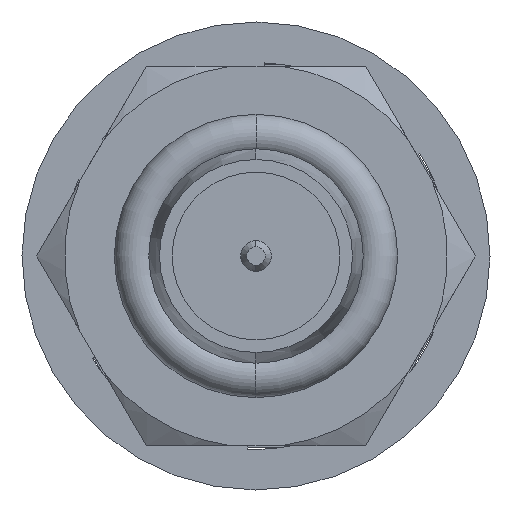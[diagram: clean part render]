
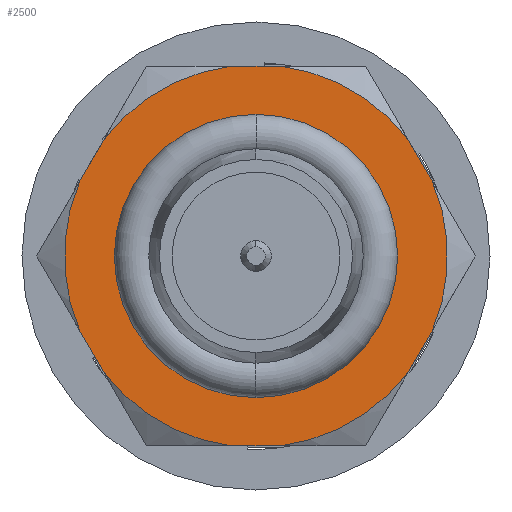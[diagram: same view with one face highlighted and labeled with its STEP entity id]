
A CAD part, left-side view. The second image highlights one B-rep face of the part: STEP entity #2500.
In plain terms, the highlighted planar face has unit normal (-1, 0, 0).
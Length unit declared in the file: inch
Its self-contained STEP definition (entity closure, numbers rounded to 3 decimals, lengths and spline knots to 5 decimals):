
#140 = CARTESIAN_POINT ( 'NONE',  ( 0.241, -0.0995, -0.07567 ) ) ;
#175 = CARTESIAN_POINT ( 'NONE',  ( 0.241, 0., 0. ) ) ;
#187 = CARTESIAN_POINT ( 'NONE',  ( 0.241, 0.0995, 0.07567 ) ) ;
#193 = DIRECTION ( 'NONE',  ( -1., 0., 0. ) ) ;
#222 = AXIS2_PLACEMENT_3D ( 'NONE', #6061, #6577, #3491 ) ;
#236 = CIRCLE ( 'NONE', #4353, 0.125 ) ;
#305 = ORIENTED_EDGE ( 'NONE', *, *, #2503, .F. ) ;
#368 = DIRECTION ( 'NONE',  ( 1., 0., 0. ) ) ;
#387 = VERTEX_POINT ( 'NONE', #2062 ) ;
#435 = VERTEX_POINT ( 'NONE', #1213 ) ;
#442 = EDGE_CURVE ( 'NONE', #435, #3842, #2944, .T. ) ;
#458 = VERTEX_POINT ( 'NONE', #5118 ) ;
#488 = DIRECTION ( 'NONE',  ( -1., 0., 0. ) ) ;
#502 = CARTESIAN_POINT ( 'NONE',  ( 0.241, 0.07159, -0.124 ) ) ;
#551 = CIRCLE ( 'NONE', #4852, 0.125 ) ;
#552 = ORIENTED_EDGE ( 'NONE', *, *, #4650, .T. ) ;
#608 = DIRECTION ( 'NONE',  ( 1., 0., 0. ) ) ;
#669 = AXIS2_PLACEMENT_3D ( 'NONE', #3660, #193, #5884 ) ;
#784 = LINE ( 'NONE', #4906, #1458 ) ;
#816 = LINE ( 'NONE', #502, #3428 ) ;
#838 = CARTESIAN_POINT ( 'NONE',  ( 0.241, 0.11528, -0.04833 ) ) ;
#879 = CIRCLE ( 'NONE', #6370, 0.125 ) ;
#942 = ORIENTED_EDGE ( 'NONE', *, *, #1393, .T. ) ;
#958 = CARTESIAN_POINT ( 'NONE',  ( 0.241, 0.11528, 0.04833 ) ) ;
#1060 = DIRECTION ( 'NONE',  ( 0., -0.5, 0.866 ) ) ;
#1106 = DIRECTION ( 'NONE',  ( -1., 0., 0. ) ) ;
#1123 = DIRECTION ( 'NONE',  ( 1., 0., 0. ) ) ;
#1171 = DIRECTION ( 'NONE',  ( -1., 0., 0. ) ) ;
#1213 = CARTESIAN_POINT ( 'NONE',  ( 0.241, -0.01578, -0.124 ) ) ;
#1256 = CARTESIAN_POINT ( 'NONE',  ( 0.241, 0.01578, -0.124 ) ) ;
#1377 = ORIENTED_EDGE ( 'NONE', *, *, #4714, .F. ) ;
#1385 = CIRCLE ( 'NONE', #2712, 0.125 ) ;
#1393 = EDGE_CURVE ( 'NONE', #4386, #3419, #1385, .T. ) ;
#1434 = VERTEX_POINT ( 'NONE', #2181 ) ;
#1438 = EDGE_CURVE ( 'NONE', #5699, #3419, #784, .T. ) ;
#1458 = VECTOR ( 'NONE', #1060, 39.37008 ) ;
#1519 = EDGE_CURVE ( 'NONE', #6169, #3842, #6223, .T. ) ;
#1555 = EDGE_CURVE ( 'NONE', #5699, #5489, #879, .T. ) ;
#1592 = EDGE_CURVE ( 'NONE', #5822, #6136, #3494, .T. ) ;
#1642 = ORIENTED_EDGE ( 'NONE', *, *, #1438, .F. ) ;
#1656 = FACE_BOUND ( 'NONE', #3223, .T. ) ;
#1808 = ORIENTED_EDGE ( 'NONE', *, *, #4174, .T. ) ;
#1945 = CARTESIAN_POINT ( 'NONE',  ( 0.241, -0.07159, 0.124 ) ) ;
#1989 = CARTESIAN_POINT ( 'NONE',  ( 0.241, 0.07159, -0.124 ) ) ;
#1993 = ORIENTED_EDGE ( 'NONE', *, *, #4245, .F. ) ;
#2062 = CARTESIAN_POINT ( 'NONE',  ( 0.241, 0., -0.09 ) ) ;
#2141 = DIRECTION ( 'NONE',  ( 0., 0.5, -0.866 ) ) ;
#2181 = CARTESIAN_POINT ( 'NONE',  ( 0.241, 0., 0.09 ) ) ;
#2243 = LINE ( 'NONE', #4796, #6214 ) ;
#2296 = DIRECTION ( 'NONE',  ( 0., 0.5, 0.866 ) ) ;
#2316 = DIRECTION ( 'NONE',  ( 0., -1., 0. ) ) ;
#2400 = LINE ( 'NONE', #1945, #5145 ) ;
#2454 = DIRECTION ( 'NONE',  ( 0., 0.866, 0.5 ) ) ;
#2482 = CARTESIAN_POINT ( 'NONE',  ( 0.241, -0.11528, 0.04833 ) ) ;
#2500 = ADVANCED_FACE ( 'NONE', ( #1656, #3209 ), #3058, .F. ) ;
#2503 = EDGE_CURVE ( 'NONE', #5822, #2549, #2400, .T. ) ;
#2546 = AXIS2_PLACEMENT_3D ( 'NONE', #6298, #1123, #4748 ) ;
#2549 = VERTEX_POINT ( 'NONE', #2482 ) ;
#2712 = AXIS2_PLACEMENT_3D ( 'NONE', #3307, #3118, #5608 ) ;
#2917 = AXIS2_PLACEMENT_3D ( 'NONE', #4873, #608, #5400 ) ;
#2944 = CIRCLE ( 'NONE', #222, 0.125 ) ;
#2985 = CARTESIAN_POINT ( 'NONE',  ( 0.241, 0.01578, 0.124 ) ) ;
#3058 = PLANE ( 'NONE',  #5104 ) ;
#3059 = ORIENTED_EDGE ( 'NONE', *, *, #1519, .F. ) ;
#3118 = DIRECTION ( 'NONE',  ( -1., 0., 0. ) ) ;
#3209 = FACE_OUTER_BOUND ( 'NONE', #5616, .T. ) ;
#3223 = EDGE_LOOP ( 'NONE', ( #3608, #1808 ) ) ;
#3245 = EDGE_CURVE ( 'NONE', #4386, #6136, #2243, .T. ) ;
#3307 = CARTESIAN_POINT ( 'NONE',  ( 0.241, 0., 0. ) ) ;
#3342 = CARTESIAN_POINT ( 'NONE',  ( 0.241, 0., 0. ) ) ;
#3419 = VERTEX_POINT ( 'NONE', #187 ) ;
#3428 = VECTOR ( 'NONE', #2296, 39.37008 ) ;
#3441 = CARTESIAN_POINT ( 'NONE',  ( 0.241, -0.07159, -0.124 ) ) ;
#3483 = VECTOR ( 'NONE', #2141, 39.37008 ) ;
#3491 = DIRECTION ( 'NONE',  ( 0., 0.866, 0.5 ) ) ;
#3494 = CIRCLE ( 'NONE', #669, 0.125 ) ;
#3590 = CIRCLE ( 'NONE', #2546, 0.09 ) ;
#3608 = ORIENTED_EDGE ( 'NONE', *, *, #4187, .T. ) ;
#3660 = CARTESIAN_POINT ( 'NONE',  ( 0.241, 0., 0. ) ) ;
#3694 = DIRECTION ( 'NONE',  ( 0., 1., 0. ) ) ;
#3741 = CIRCLE ( 'NONE', #2917, 0.09 ) ;
#3842 = VERTEX_POINT ( 'NONE', #140 ) ;
#3892 = ORIENTED_EDGE ( 'NONE', *, *, #3245, .F. ) ;
#4060 = LINE ( 'NONE', #3441, #6640 ) ;
#4174 = EDGE_CURVE ( 'NONE', #387, #1434, #3590, .T. ) ;
#4187 = EDGE_CURVE ( 'NONE', #1434, #387, #3741, .T. ) ;
#4245 = EDGE_CURVE ( 'NONE', #458, #5489, #816, .T. ) ;
#4253 = ORIENTED_EDGE ( 'NONE', *, *, #5324, .T. ) ;
#4353 = AXIS2_PLACEMENT_3D ( 'NONE', #3342, #1171, #2454 ) ;
#4365 = CARTESIAN_POINT ( 'NONE',  ( 0.241, -0.0995, 0.07567 ) ) ;
#4386 = VERTEX_POINT ( 'NONE', #2985 ) ;
#4468 = CARTESIAN_POINT ( 'NONE',  ( 0.241, 0., 0. ) ) ;
#4650 = EDGE_CURVE ( 'NONE', #6169, #2549, #236, .T. ) ;
#4714 = EDGE_CURVE ( 'NONE', #435, #5882, #4060, .T. ) ;
#4748 = DIRECTION ( 'NONE',  ( 0., 0., -1. ) ) ;
#4796 = CARTESIAN_POINT ( 'NONE',  ( 0.241, 0.07159, 0.124 ) ) ;
#4823 = ORIENTED_EDGE ( 'NONE', *, *, #1555, .T. ) ;
#4852 = AXIS2_PLACEMENT_3D ( 'NONE', #175, #1106, #6338 ) ;
#4873 = CARTESIAN_POINT ( 'NONE',  ( 0.241, 0., 0. ) ) ;
#4906 = CARTESIAN_POINT ( 'NONE',  ( 0.241, 0.14318, 0. ) ) ;
#5104 = AXIS2_PLACEMENT_3D ( 'NONE', #1989, #368, #6663 ) ;
#5118 = CARTESIAN_POINT ( 'NONE',  ( 0.241, 0.0995, -0.07567 ) ) ;
#5145 = VECTOR ( 'NONE', #6135, 39.37008 ) ;
#5168 = DIRECTION ( 'NONE',  ( 0., 0.866, 0.5 ) ) ;
#5286 = ORIENTED_EDGE ( 'NONE', *, *, #442, .T. ) ;
#5324 = EDGE_CURVE ( 'NONE', #458, #5882, #551, .T. ) ;
#5400 = DIRECTION ( 'NONE',  ( 0., 0., -1. ) ) ;
#5489 = VERTEX_POINT ( 'NONE', #838 ) ;
#5608 = DIRECTION ( 'NONE',  ( 0., 0.866, 0.5 ) ) ;
#5616 = EDGE_LOOP ( 'NONE', ( #3059, #552, #305, #5646, #3892, #942, #1642, #4823, #1993, #4253, #1377, #5286 ) ) ;
#5646 = ORIENTED_EDGE ( 'NONE', *, *, #1592, .T. ) ;
#5699 = VERTEX_POINT ( 'NONE', #958 ) ;
#5822 = VERTEX_POINT ( 'NONE', #4365 ) ;
#5882 = VERTEX_POINT ( 'NONE', #1256 ) ;
#5884 = DIRECTION ( 'NONE',  ( 0., 0.866, 0.5 ) ) ;
#6061 = CARTESIAN_POINT ( 'NONE',  ( 0.241, 0., 0. ) ) ;
#6092 = CARTESIAN_POINT ( 'NONE',  ( 0.241, -0.14318, 0. ) ) ;
#6113 = CARTESIAN_POINT ( 'NONE',  ( 0.241, -0.01578, 0.124 ) ) ;
#6135 = DIRECTION ( 'NONE',  ( 0., -0.5, -0.866 ) ) ;
#6136 = VERTEX_POINT ( 'NONE', #6113 ) ;
#6169 = VERTEX_POINT ( 'NONE', #6197 ) ;
#6197 = CARTESIAN_POINT ( 'NONE',  ( 0.241, -0.11528, -0.04833 ) ) ;
#6214 = VECTOR ( 'NONE', #2316, 39.37008 ) ;
#6223 = LINE ( 'NONE', #6092, #3483 ) ;
#6298 = CARTESIAN_POINT ( 'NONE',  ( 0.241, 0., 0. ) ) ;
#6338 = DIRECTION ( 'NONE',  ( 0., 0.866, 0.5 ) ) ;
#6370 = AXIS2_PLACEMENT_3D ( 'NONE', #4468, #488, #5168 ) ;
#6577 = DIRECTION ( 'NONE',  ( -1., 0., 0. ) ) ;
#6640 = VECTOR ( 'NONE', #3694, 39.37008 ) ;
#6663 = DIRECTION ( 'NONE',  ( 0., -0.866, -0.5 ) ) ;
